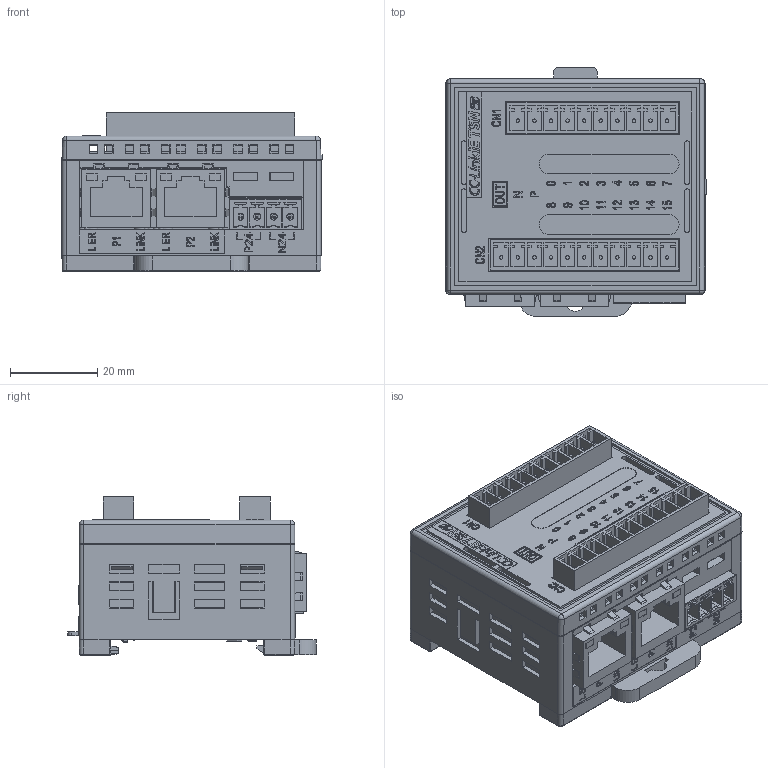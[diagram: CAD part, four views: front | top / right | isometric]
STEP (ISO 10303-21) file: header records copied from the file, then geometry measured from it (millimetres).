
FILE_DESCRIPTION((''),'2;1');
FILE_NAME('CTCBP0F','2026-05-11T15:00:42',('gijyu181'),(''),'CREO PARAMETRIC BY PTC INC, 2018050','CREO PARAMETRIC BY PTC INC, 2018050','');
FILE_SCHEMA(('CONFIG_CONTROL_DESIGN','SHAPE_APPEARANCE_LAYERS_GROUPS'));
Products named in the file (1): CTCBP0F
Bounding box: 59.75 x 57.15 x 36.3 mm (x, y, z)
Volume: 68583 mm3; surface area: 40795 mm2
Topology: 1 solids, 17 shells, 6035 faces, 16658 edges, 10999 vertices
Faces by surface type: plane 4467, cylinder 721, extrusion 711, sphere 44, cone 42, torus 26, bspline 24
Entity records: 243058 total; most frequent: CARTESIAN_POINT 43217, ORIENTED_EDGE 33280, DIRECTION 27681, EDGE_CURVE 16644, VECTOR 14139, LINE 13428, VERTEX_POINT 10999, PRESENTATION_STYLE_ASSIGNMENT 9525
